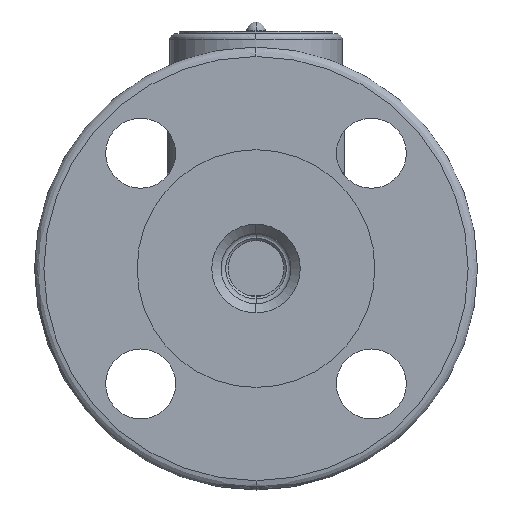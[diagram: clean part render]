
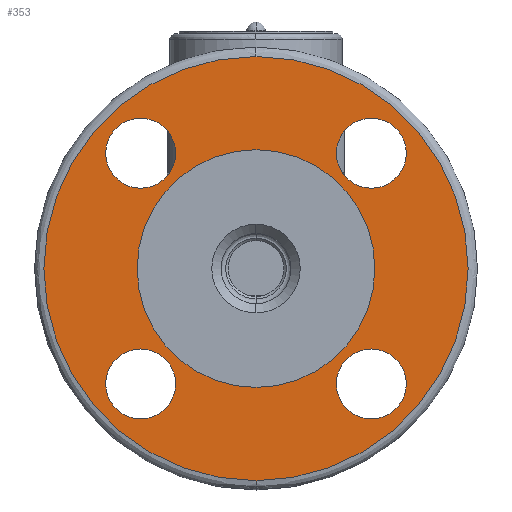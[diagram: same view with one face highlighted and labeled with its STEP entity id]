
A CAD part, left-side view. The second image highlights one B-rep face of the part: STEP entity #353.
In plain terms, the highlighted planar face has unit normal (-1, 0, 0).
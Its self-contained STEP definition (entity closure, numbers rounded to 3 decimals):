
#353=ADVANCED_FACE('',(#1165,#1166,#1167,#1168,#1169,#1170),#1164,.T.);
#1164=PLANE('',#4411);
#1165=FACE_OUTER_BOUND('',#4412,.T.);
#1166=FACE_BOUND('',#4413,.T.);
#1167=FACE_BOUND('',#4414,.T.);
#1168=FACE_BOUND('',#4415,.T.);
#1169=FACE_BOUND('',#4416,.T.);
#1170=FACE_BOUND('',#4417,.T.);
#4408=CARTESIAN_POINT('',(-62.5,-88.808,-101.));
#4409=DIRECTION('',(-1.,0.,0.));
#4410=DIRECTION('',(0.,0.,1.));
#4411=AXIS2_PLACEMENT_3D('',#4408,#4409,#4410);
#4412=EDGE_LOOP('',(#7222,#7223));
#4413=EDGE_LOOP('',(#7224,#7225));
#4414=EDGE_LOOP('',(#7226,#7227));
#4415=EDGE_LOOP('',(#7228,#7229));
#4416=EDGE_LOOP('',(#7230,#7231));
#4417=EDGE_LOOP('',(#7232,#7233));
#7222=ORIENTED_EDGE('',*,*,#8407,.T.);
#7223=ORIENTED_EDGE('',*,*,#8408,.T.);
#7224=ORIENTED_EDGE('',*,*,#8409,.F.);
#7225=ORIENTED_EDGE('',*,*,#8410,.F.);
#7226=ORIENTED_EDGE('',*,*,#8411,.F.);
#7227=ORIENTED_EDGE('',*,*,#8412,.F.);
#7228=ORIENTED_EDGE('',*,*,#8413,.F.);
#7229=ORIENTED_EDGE('',*,*,#8414,.F.);
#7230=ORIENTED_EDGE('',*,*,#8415,.F.);
#7231=ORIENTED_EDGE('',*,*,#8416,.F.);
#7232=ORIENTED_EDGE('',*,*,#8417,.F.);
#7233=ORIENTED_EDGE('',*,*,#8418,.F.);
#8407=EDGE_CURVE('',#10002,#10003,#10004,.T.);
#8408=EDGE_CURVE('',#10003,#10002,#10010,.T.);
#8409=EDGE_CURVE('',#10016,#10017,#10018,.T.);
#8410=EDGE_CURVE('',#10017,#10016,#10024,.T.);
#8411=EDGE_CURVE('',#10030,#10031,#10032,.T.);
#8412=EDGE_CURVE('',#10031,#10030,#10038,.T.);
#8413=EDGE_CURVE('',#10044,#10045,#10046,.T.);
#8414=EDGE_CURVE('',#10045,#10044,#10052,.T.);
#8415=EDGE_CURVE('',#10058,#10059,#10060,.T.);
#8416=EDGE_CURVE('',#10059,#10058,#10066,.T.);
#8417=EDGE_CURVE('',#10072,#10073,#10074,.T.);
#8418=EDGE_CURVE('',#10073,#10072,#10080,.T.);
#10002=VERTEX_POINT('',#14165);
#10003=VERTEX_POINT('',#14166);
#10004=CIRCLE('',#14170,45.5);
#10010=CIRCLE('',#14174,45.5);
#10016=VERTEX_POINT('',#14175);
#10017=VERTEX_POINT('',#14176);
#10018=CIRCLE('',#14180,7.5);
#10024=CIRCLE('',#14184,7.5);
#10030=VERTEX_POINT('',#14185);
#10031=VERTEX_POINT('',#14186);
#10032=CIRCLE('',#14190,7.5);
#10038=CIRCLE('',#14194,7.5);
#10044=VERTEX_POINT('',#14195);
#10045=VERTEX_POINT('',#14196);
#10046=CIRCLE('',#14200,7.5);
#10052=CIRCLE('',#14204,7.5);
#10058=VERTEX_POINT('',#14205);
#10059=VERTEX_POINT('',#14206);
#10060=CIRCLE('',#14210,7.5);
#10066=CIRCLE('',#14214,7.5);
#10072=VERTEX_POINT('',#14215);
#10073=VERTEX_POINT('',#14216);
#10074=CIRCLE('',#14220,25.5);
#10080=CIRCLE('',#14224,25.5);
#14165=CARTESIAN_POINT('',(-62.5,0.,45.5));
#14166=CARTESIAN_POINT('',(-62.5,0.,-45.5));
#14167=CARTESIAN_POINT('',(-62.5,0.,0.));
#14168=DIRECTION('',(-1.,0.,0.));
#14169=DIRECTION('',(0.,0.,1.));
#14170=AXIS2_PLACEMENT_3D('',#14167,#14168,#14169);
#14171=CARTESIAN_POINT('',(-62.5,0.,0.));
#14172=DIRECTION('',(-1.,0.,0.));
#14173=DIRECTION('',(0.,0.,1.));
#14174=AXIS2_PLACEMENT_3D('',#14171,#14172,#14173);
#14175=CARTESIAN_POINT('',(-62.5,24.749,17.249));
#14176=CARTESIAN_POINT('',(-62.5,24.749,32.249));
#14177=CARTESIAN_POINT('',(-62.5,24.749,24.749));
#14178=DIRECTION('',(-1.,0.,0.));
#14179=DIRECTION('',(0.,0.,1.));
#14180=AXIS2_PLACEMENT_3D('',#14177,#14178,#14179);
#14181=CARTESIAN_POINT('',(-62.5,24.749,24.749));
#14182=DIRECTION('',(-1.,0.,0.));
#14183=DIRECTION('',(0.,0.,1.));
#14184=AXIS2_PLACEMENT_3D('',#14181,#14182,#14183);
#14185=CARTESIAN_POINT('',(-62.5,24.749,-32.249));
#14186=CARTESIAN_POINT('',(-62.5,24.749,-17.249));
#14187=CARTESIAN_POINT('',(-62.5,24.749,-24.749));
#14188=DIRECTION('',(-1.,0.,0.));
#14189=DIRECTION('',(0.,0.,1.));
#14190=AXIS2_PLACEMENT_3D('',#14187,#14188,#14189);
#14191=CARTESIAN_POINT('',(-62.5,24.749,-24.749));
#14192=DIRECTION('',(-1.,0.,0.));
#14193=DIRECTION('',(0.,0.,1.));
#14194=AXIS2_PLACEMENT_3D('',#14191,#14192,#14193);
#14195=CARTESIAN_POINT('',(-62.5,-24.749,-32.249));
#14196=CARTESIAN_POINT('',(-62.5,-24.749,-17.249));
#14197=CARTESIAN_POINT('',(-62.5,-24.749,-24.749));
#14198=DIRECTION('',(-1.,0.,0.));
#14199=DIRECTION('',(0.,0.,1.));
#14200=AXIS2_PLACEMENT_3D('',#14197,#14198,#14199);
#14201=CARTESIAN_POINT('',(-62.5,-24.749,-24.749));
#14202=DIRECTION('',(-1.,0.,0.));
#14203=DIRECTION('',(0.,0.,1.));
#14204=AXIS2_PLACEMENT_3D('',#14201,#14202,#14203);
#14205=CARTESIAN_POINT('',(-62.5,-24.749,17.249));
#14206=CARTESIAN_POINT('',(-62.5,-24.749,32.249));
#14207=CARTESIAN_POINT('',(-62.5,-24.749,24.749));
#14208=DIRECTION('',(-1.,0.,0.));
#14209=DIRECTION('',(0.,0.,1.));
#14210=AXIS2_PLACEMENT_3D('',#14207,#14208,#14209);
#14211=CARTESIAN_POINT('',(-62.5,-24.749,24.749));
#14212=DIRECTION('',(-1.,0.,0.));
#14213=DIRECTION('',(0.,0.,1.));
#14214=AXIS2_PLACEMENT_3D('',#14211,#14212,#14213);
#14215=CARTESIAN_POINT('',(-62.5,0.,-25.5));
#14216=CARTESIAN_POINT('',(-62.5,0.,25.5));
#14217=CARTESIAN_POINT('',(-62.5,0.,0.));
#14218=DIRECTION('',(-1.,0.,0.));
#14219=DIRECTION('',(0.,0.,1.));
#14220=AXIS2_PLACEMENT_3D('',#14217,#14218,#14219);
#14221=CARTESIAN_POINT('',(-62.5,0.,0.));
#14222=DIRECTION('',(-1.,0.,0.));
#14223=DIRECTION('',(0.,0.,1.));
#14224=AXIS2_PLACEMENT_3D('',#14221,#14222,#14223);
